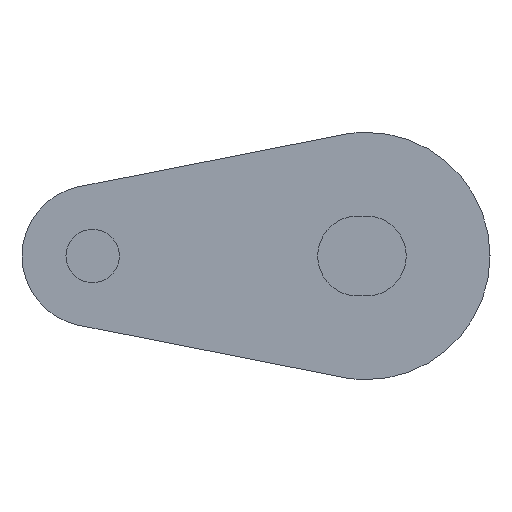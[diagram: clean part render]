
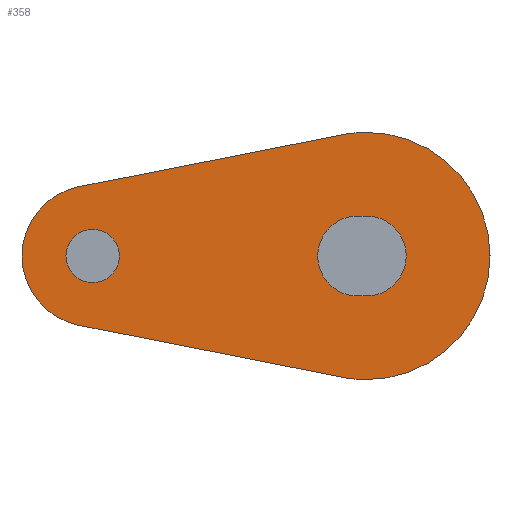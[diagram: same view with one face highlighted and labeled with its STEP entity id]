
A CAD part, left-side view. The second image highlights one B-rep face of the part: STEP entity #358.
In plain terms, the highlighted planar face has unit normal (-1, 0, 0).
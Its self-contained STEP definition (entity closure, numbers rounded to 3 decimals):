
#20 = ORIENTED_EDGE ( 'NONE', *, *, #200, .T. ) ;
#40 = ORIENTED_EDGE ( 'NONE', *, *, #291, .F. ) ;
#49 = ORIENTED_EDGE ( 'NONE', *, *, #212, .T. ) ;
#50 = ORIENTED_EDGE ( 'NONE', *, *, #327, .T. ) ;
#55 = ORIENTED_EDGE ( 'NONE', *, *, #337, .T. ) ;
#56 = ORIENTED_EDGE ( 'NONE', *, *, #335, .T. ) ;
#58 = ORIENTED_EDGE ( 'NONE', *, *, #268, .F. ) ;
#60 = ORIENTED_EDGE ( 'NONE', *, *, #221, .F. ) ;
#61 = ORIENTED_EDGE ( 'NONE', *, *, #214, .F. ) ;
#62 = ORIENTED_EDGE ( 'NONE', *, *, #269, .F. ) ;
#63 = ORIENTED_EDGE ( 'NONE', *, *, #279, .T. ) ;
#92 = ORIENTED_EDGE ( 'NONE', *, *, #299, .F. ) ;
#134 = EDGE_LOOP ( 'NONE', ( #49, #50, #63, #20 ) ) ;
#159 = EDGE_LOOP ( 'NONE', ( #55, #56 ) ) ;
#181 = EDGE_LOOP ( 'NONE', ( #58, #60, #62, #61, #40, #92 ) ) ;
#200 = EDGE_CURVE ( 'NONE', #947, #982, #814, .T. ) ;
#212 = EDGE_CURVE ( 'NONE', #982, #950, #801, .T. ) ;
#213 = AXIS2_PLACEMENT_3D ( 'NONE', #928, #1041, #1042 ) ;
#214 = EDGE_CURVE ( 'NONE', #964, #966, #799, .T. ) ;
#221 = EDGE_CURVE ( 'NONE', #971, #1038, #794, .T. ) ;
#233 = AXIS2_PLACEMENT_3D ( 'NONE', #641, #638, #633 ) ;
#255 = AXIS2_PLACEMENT_3D ( 'NONE', #1028, #1011, #1010 ) ;
#268 = EDGE_CURVE ( 'NONE', #1038, #970, #766, .T. ) ;
#269 = EDGE_CURVE ( 'NONE', #966, #971, #765, .T. ) ;
#279 = EDGE_CURVE ( 'NONE', #994, #947, #752, .T. ) ;
#291 = EDGE_CURVE ( 'NONE', #1002, #964, #741, .T. ) ;
#294 = AXIS2_PLACEMENT_3D ( 'NONE', #1045, #410, #467 ) ;
#296 = AXIS2_PLACEMENT_3D ( 'NONE', #919, #918, #926 ) ;
#299 = EDGE_CURVE ( 'NONE', #970, #1002, #764, .T. ) ;
#314 = AXIS2_PLACEMENT_3D ( 'NONE', #1004, #987, #986 ) ;
#321 = AXIS2_PLACEMENT_3D ( 'NONE', #662, #646, #645 ) ;
#327 = EDGE_CURVE ( 'NONE', #950, #994, #736, .T. ) ;
#329 = AXIS2_PLACEMENT_3D ( 'NONE', #549, #548, #547 ) ;
#335 = EDGE_CURVE ( 'NONE', #980, #977, #707, .T. ) ;
#337 = EDGE_CURVE ( 'NONE', #977, #980, #705, .T. ) ;
#340 = AXIS2_PLACEMENT_3D ( 'NONE', #912, #921, #920 ) ;
#358 = ADVANCED_FACE ( 'NONE', ( #683, #679, #677 ), #544, .T. ) ;
#410 = DIRECTION ( 'NONE',  ( 1., 0., 0. ) ) ;
#428 = CARTESIAN_POINT ( 'NONE',  ( -182.5, 16.274, -3.924 ) ) ;
#431 = CARTESIAN_POINT ( 'NONE',  ( -182.5, 16.274, 3.924 ) ) ;
#433 = CARTESIAN_POINT ( 'NONE',  ( -182.5, 1.355, -6.868 ) ) ;
#467 = DIRECTION ( 'NONE',  ( 0., 0., -1. ) ) ;
#485 = CARTESIAN_POINT ( 'NONE',  ( -182.5, 15.5, -1.51 ) ) ;
#486 = CARTESIAN_POINT ( 'NONE',  ( -182.5, 0.5, -2.26 ) ) ;
#490 = CARTESIAN_POINT ( 'NONE',  ( -182.5, 15.5, 1.51 ) ) ;
#499 = CARTESIAN_POINT ( 'NONE',  ( -182.5, 1.355, 6.868 ) ) ;
#509 = CARTESIAN_POINT ( 'NONE',  ( -182.5, 0., 2.26 ) ) ;
#514 = CARTESIAN_POINT ( 'NONE',  ( -182.5, 16.274, 3.924 ) ) ;
#544 = PLANE ( 'NONE',  #329 ) ;
#547 = DIRECTION ( 'NONE',  ( 0., 0., -1. ) ) ;
#548 = DIRECTION ( 'NONE',  ( -1., 0., 0. ) ) ;
#549 = CARTESIAN_POINT ( 'NONE',  ( -182.5, 15.5, 0. ) ) ;
#566 = CARTESIAN_POINT ( 'NONE',  ( -182.5, 0.5, 2.26 ) ) ;
#579 = CARTESIAN_POINT ( 'NONE',  ( -182.5, 0., -2.26 ) ) ;
#585 = CARTESIAN_POINT ( 'NONE',  ( -182.5, 0., -7. ) ) ;
#589 = CARTESIAN_POINT ( 'NONE',  ( -182.5, 0., 7. ) ) ;
#633 = DIRECTION ( 'NONE',  ( 0., 0., -1. ) ) ;
#638 = DIRECTION ( 'NONE',  ( 1., 0., 0. ) ) ;
#641 = CARTESIAN_POINT ( 'NONE',  ( -182.5, 15.5, 0. ) ) ;
#645 = DIRECTION ( 'NONE',  ( 0., 0., -1. ) ) ;
#646 = DIRECTION ( 'NONE',  ( 1., 0., 0. ) ) ;
#654 = DIRECTION ( 'NONE',  ( 0., -0.981, 0.194 ) ) ;
#659 = DIRECTION ( 'NONE',  ( 0., -1., 0. ) ) ;
#661 = CARTESIAN_POINT ( 'NONE',  ( -182.5, 0.5, 2.26 ) ) ;
#662 = CARTESIAN_POINT ( 'NONE',  ( -182.5, 15.5, 0. ) ) ;
#677 = FACE_OUTER_BOUND ( 'NONE', #181, .T. ) ;
#679 = FACE_BOUND ( 'NONE', #159, .T. ) ;
#683 = FACE_BOUND ( 'NONE', #134, .T. ) ;
#705 = CIRCLE ( 'NONE', #233, 1.51 ) ;
#707 = CIRCLE ( 'NONE', #321, 1.51 ) ;
#712 = VECTOR ( 'NONE', #659, 1000. ) ;
#736 = LINE ( 'NONE', #661, #712 ) ;
#741 = CIRCLE ( 'NONE', #294, 7. ) ;
#745 = VECTOR ( 'NONE', #654, 1000. ) ;
#752 = CIRCLE ( 'NONE', #213, 2.26 ) ;
#764 = LINE ( 'NONE', #514, #745 ) ;
#765 = CIRCLE ( 'NONE', #296, 7. ) ;
#766 = CIRCLE ( 'NONE', #340, 4. ) ;
#793 = VECTOR ( 'NONE', #961, 1000. ) ;
#794 = LINE ( 'NONE', #1006, #793 ) ;
#799 = CIRCLE ( 'NONE', #314, 7. ) ;
#801 = CIRCLE ( 'NONE', #255, 2.26 ) ;
#811 = VECTOR ( 'NONE', #1017, 1000. ) ;
#814 = LINE ( 'NONE', #1020, #811 ) ;
#912 = CARTESIAN_POINT ( 'NONE',  ( -182.5, 15.5, 0. ) ) ;
#918 = DIRECTION ( 'NONE',  ( 1., 0., 0. ) ) ;
#919 = CARTESIAN_POINT ( 'NONE',  ( -182.5, 0., 0. ) ) ;
#920 = DIRECTION ( 'NONE',  ( 0., 0., -1. ) ) ;
#921 = DIRECTION ( 'NONE',  ( 1., 0., 0. ) ) ;
#926 = DIRECTION ( 'NONE',  ( 0., 0., -1. ) ) ;
#928 = CARTESIAN_POINT ( 'NONE',  ( -182.5, 0., 0. ) ) ;
#947 = VERTEX_POINT ( 'NONE', #579 ) ;
#950 = VERTEX_POINT ( 'NONE', #566 ) ;
#961 = DIRECTION ( 'NONE',  ( 0., 0.981, 0.194 ) ) ;
#964 = VERTEX_POINT ( 'NONE', #589 ) ;
#966 = VERTEX_POINT ( 'NONE', #585 ) ;
#970 = VERTEX_POINT ( 'NONE', #431 ) ;
#971 = VERTEX_POINT ( 'NONE', #433 ) ;
#977 = VERTEX_POINT ( 'NONE', #485 ) ;
#980 = VERTEX_POINT ( 'NONE', #490 ) ;
#982 = VERTEX_POINT ( 'NONE', #486 ) ;
#986 = DIRECTION ( 'NONE',  ( 0., 0., -1. ) ) ;
#987 = DIRECTION ( 'NONE',  ( 1., 0., 0. ) ) ;
#994 = VERTEX_POINT ( 'NONE', #509 ) ;
#1002 = VERTEX_POINT ( 'NONE', #499 ) ;
#1004 = CARTESIAN_POINT ( 'NONE',  ( -182.5, 0., 0. ) ) ;
#1006 = CARTESIAN_POINT ( 'NONE',  ( -182.5, 1.355, -6.868 ) ) ;
#1010 = DIRECTION ( 'NONE',  ( 0., 0., -1. ) ) ;
#1011 = DIRECTION ( 'NONE',  ( 1., 0., 0. ) ) ;
#1017 = DIRECTION ( 'NONE',  ( 0., 1., 0. ) ) ;
#1020 = CARTESIAN_POINT ( 'NONE',  ( -182.5, 0.5, -2.26 ) ) ;
#1028 = CARTESIAN_POINT ( 'NONE',  ( -182.5, 0.5, 0. ) ) ;
#1038 = VERTEX_POINT ( 'NONE', #428 ) ;
#1041 = DIRECTION ( 'NONE',  ( 1., 0., 0. ) ) ;
#1042 = DIRECTION ( 'NONE',  ( 0., 0., -1. ) ) ;
#1045 = CARTESIAN_POINT ( 'NONE',  ( -182.5, 0., 0. ) ) ;
